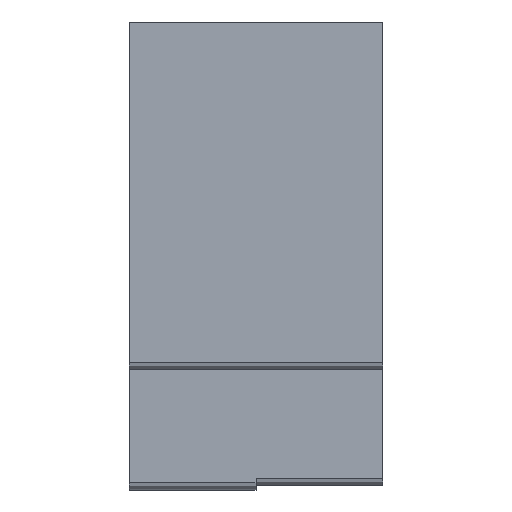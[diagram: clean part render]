
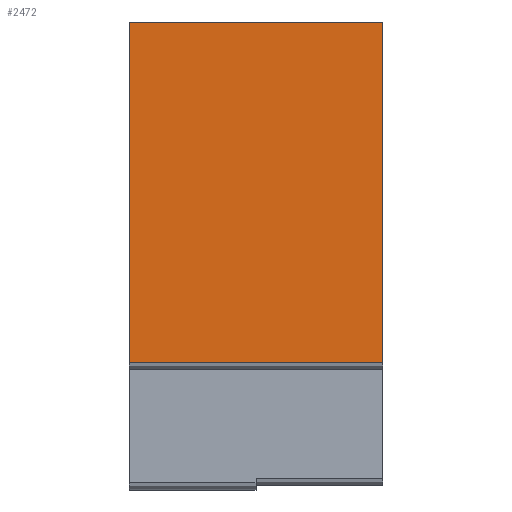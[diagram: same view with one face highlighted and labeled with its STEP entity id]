
A CAD part, front view. The second image highlights one B-rep face of the part: STEP entity #2472.
In plain terms, the highlighted planar face has unit normal (0, -1, 0).
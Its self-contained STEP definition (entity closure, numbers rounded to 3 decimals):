
#51 = EDGE_LOOP ( 'NONE', ( #1352, #1192, #1353, #1180 ) ) ;
#682 = VECTOR ( 'NONE', #1603, 1000. ) ;
#772 = LINE ( 'NONE', #1619, #849 ) ;
#773 = VECTOR ( 'NONE', #1616, 1000. ) ;
#837 = VECTOR ( 'NONE', #1628, 1000. ) ;
#849 = VECTOR ( 'NONE', #1617, 1000. ) ;
#870 = LINE ( 'NONE', #1623, #773 ) ;
#938 = LINE ( 'NONE', #1604, #682 ) ;
#1008 = LINE ( 'NONE', #1629, #837 ) ;
#1180 = ORIENTED_EDGE ( 'NONE', *, *, #3547, .T. ) ;
#1192 = ORIENTED_EDGE ( 'NONE', *, *, #3540, .T. ) ;
#1352 = ORIENTED_EDGE ( 'NONE', *, *, #3541, .T. ) ;
#1353 = ORIENTED_EDGE ( 'NONE', *, *, #3539, .F. ) ;
#1603 = DIRECTION ( 'NONE',  ( -1., 0., 0. ) ) ;
#1604 = CARTESIAN_POINT ( 'NONE',  ( 35., 0., 0. ) ) ;
#1616 = DIRECTION ( 'NONE',  ( 0., 0., -1. ) ) ;
#1617 = DIRECTION ( 'NONE',  ( 1., 0., 0. ) ) ;
#1619 = CARTESIAN_POINT ( 'NONE',  ( 35., 0., -47. ) ) ;
#1623 = CARTESIAN_POINT ( 'NONE',  ( 0., 0., 0. ) ) ;
#1628 = DIRECTION ( 'NONE',  ( 0., 0., -1. ) ) ;
#1629 = CARTESIAN_POINT ( 'NONE',  ( 35., 0., 0. ) ) ;
#2390 = CARTESIAN_POINT ( 'NONE',  ( 35., 0., -47. ) ) ;
#2472 = ADVANCED_FACE ( 'NONE', ( #6307 ), #3051, .F. ) ;
#2628 = VERTEX_POINT ( 'NONE', #2841 ) ;
#2642 = VERTEX_POINT ( 'NONE', #2827 ) ;
#2647 = VERTEX_POINT ( 'NONE', #2828 ) ;
#2756 = VERTEX_POINT ( 'NONE', #2390 ) ;
#2827 = CARTESIAN_POINT ( 'NONE',  ( 0., 0., 0. ) ) ;
#2828 = CARTESIAN_POINT ( 'NONE',  ( 0., 0., -47. ) ) ;
#2841 = CARTESIAN_POINT ( 'NONE',  ( 35., 0., 0. ) ) ;
#3040 = DIRECTION ( 'NONE',  ( 0., 0., 1. ) ) ;
#3041 = DIRECTION ( 'NONE',  ( 0., 1., 0. ) ) ;
#3048 = CARTESIAN_POINT ( 'NONE',  ( 35., 0., 0. ) ) ;
#3051 = PLANE ( 'NONE',  #3691 ) ;
#3539 = EDGE_CURVE ( 'NONE', #2628, #2756, #1008, .T. ) ;
#3540 = EDGE_CURVE ( 'NONE', #2647, #2756, #772, .T. ) ;
#3541 = EDGE_CURVE ( 'NONE', #2642, #2647, #870, .T. ) ;
#3547 = EDGE_CURVE ( 'NONE', #2628, #2642, #938, .T. ) ;
#3691 = AXIS2_PLACEMENT_3D ( 'NONE', #3048, #3041, #3040 ) ;
#6307 = FACE_OUTER_BOUND ( 'NONE', #51, .T. ) ;
